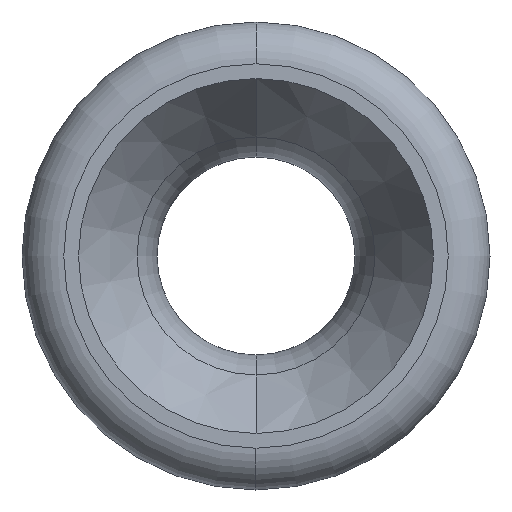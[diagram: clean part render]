
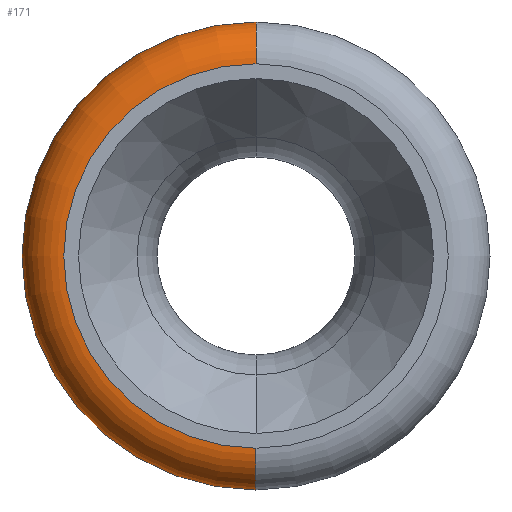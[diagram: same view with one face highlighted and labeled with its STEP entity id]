
A CAD part, left-side view. The second image highlights one B-rep face of the part: STEP entity #171.
In plain terms, the highlighted toroidal (fillet/blend) face has major radius 15.55 mm and minor radius 3.5 mm.
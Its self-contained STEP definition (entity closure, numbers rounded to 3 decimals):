
#171=ADVANCED_FACE('',(#388),#389,.T.);
#388=FACE_OUTER_BOUND('',#668,.T.);
#389=TOROIDAL_SURFACE('',#669,15.55,3.5);
#668=EDGE_LOOP('',(#1097,#1098,#1099,#1100));
#669=AXIS2_PLACEMENT_3D('',#1101,#1102,#1103);
#1097=ORIENTED_EDGE('',*,*,#1571,.T.);
#1098=ORIENTED_EDGE('',*,*,#1655,.F.);
#1099=ORIENTED_EDGE('',*,*,#1656,.F.);
#1100=ORIENTED_EDGE('',*,*,#1657,.F.);
#1101=CARTESIAN_POINT('',(9.,0.0,0.));
#1102=DIRECTION('',(-1.0,0.0,0.));
#1103=DIRECTION('',(0.,0.0,1.0));
#1571=EDGE_CURVE('',#1812,#1811,#1856,.T.);
#1655=EDGE_CURVE('',#1988,#1811,#1989,.T.);
#1656=EDGE_CURVE('',#1990,#1988,#1991,.T.);
#1657=EDGE_CURVE('',#1812,#1990,#1992,.T.);
#1811=VERTEX_POINT('',#2168);
#1812=VERTEX_POINT('',#2169);
#1856=CIRCLE('',#2213,19.05);
#1988=VERTEX_POINT('',#2363);
#1989=CIRCLE('',#2364,3.5);
#1990=VERTEX_POINT('',#2365);
#1991=CIRCLE('',#2366,15.55);
#1992=CIRCLE('',#2367,3.5);
#2168=CARTESIAN_POINT('',(9.,0.,-19.05));
#2169=CARTESIAN_POINT('',(9.,0.,19.05));
#2213=AXIS2_PLACEMENT_3D('',#2630,#2631,#2632);
#2363=CARTESIAN_POINT('',(5.5,0.,-15.55));
#2364=AXIS2_PLACEMENT_3D('',#2786,#2787,#2788);
#2365=CARTESIAN_POINT('',(5.5,0.,15.55));
#2366=AXIS2_PLACEMENT_3D('',#2789,#2790,#2791);
#2367=AXIS2_PLACEMENT_3D('',#2792,#2793,#2794);
#2630=CARTESIAN_POINT('',(9.,0.0,0.));
#2631=DIRECTION('',(-1.0,0.0,0.));
#2632=DIRECTION('',(0.,0.0,1.0));
#2786=CARTESIAN_POINT('',(9.,0.,-15.55));
#2787=DIRECTION('',(0.,-1.0,0.));
#2788=DIRECTION('',(0.,0.,-1.0));
#2789=CARTESIAN_POINT('',(5.5,0.0,0.));
#2790=DIRECTION('',(-1.0,0.0,0.));
#2791=DIRECTION('',(0.,0.0,-1.0));
#2792=CARTESIAN_POINT('',(9.,0.,15.55));
#2793=DIRECTION('',(0.,-1.0,0.));
#2794=DIRECTION('',(0.,0.,1.0));
